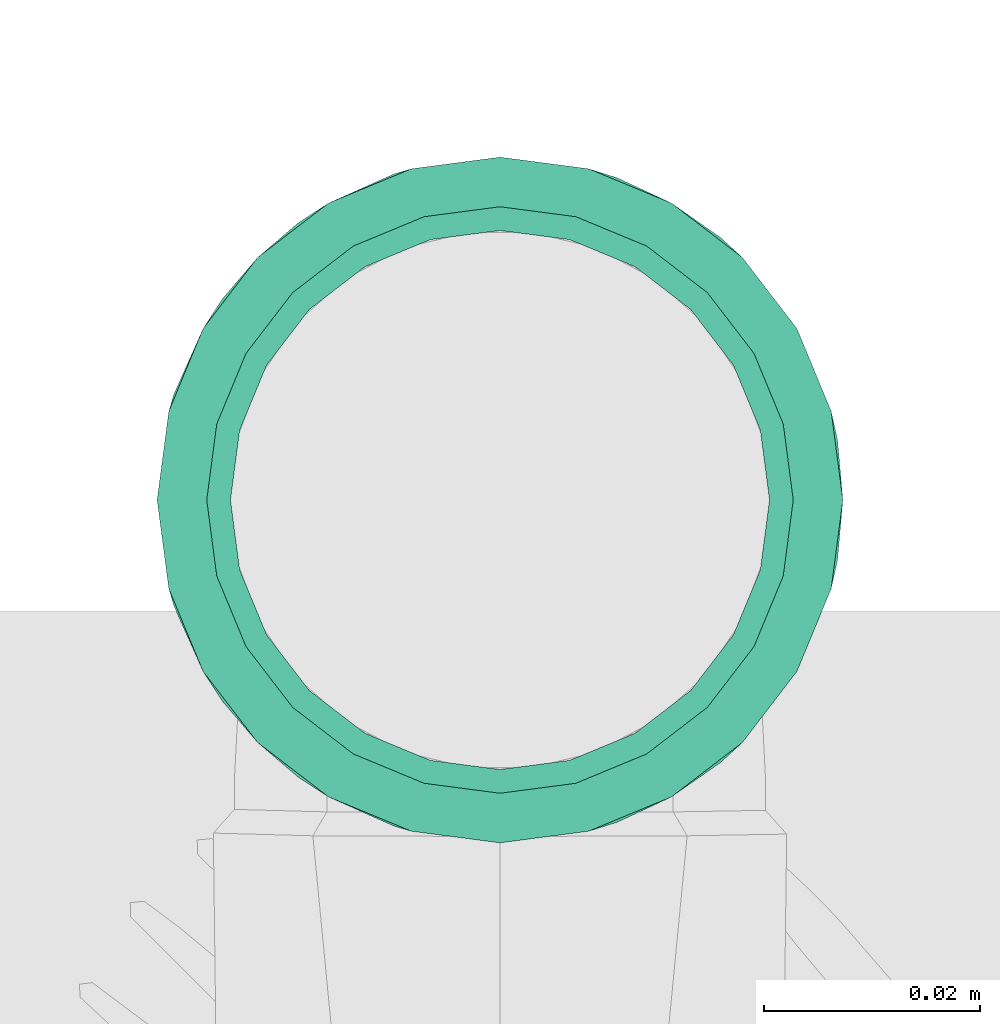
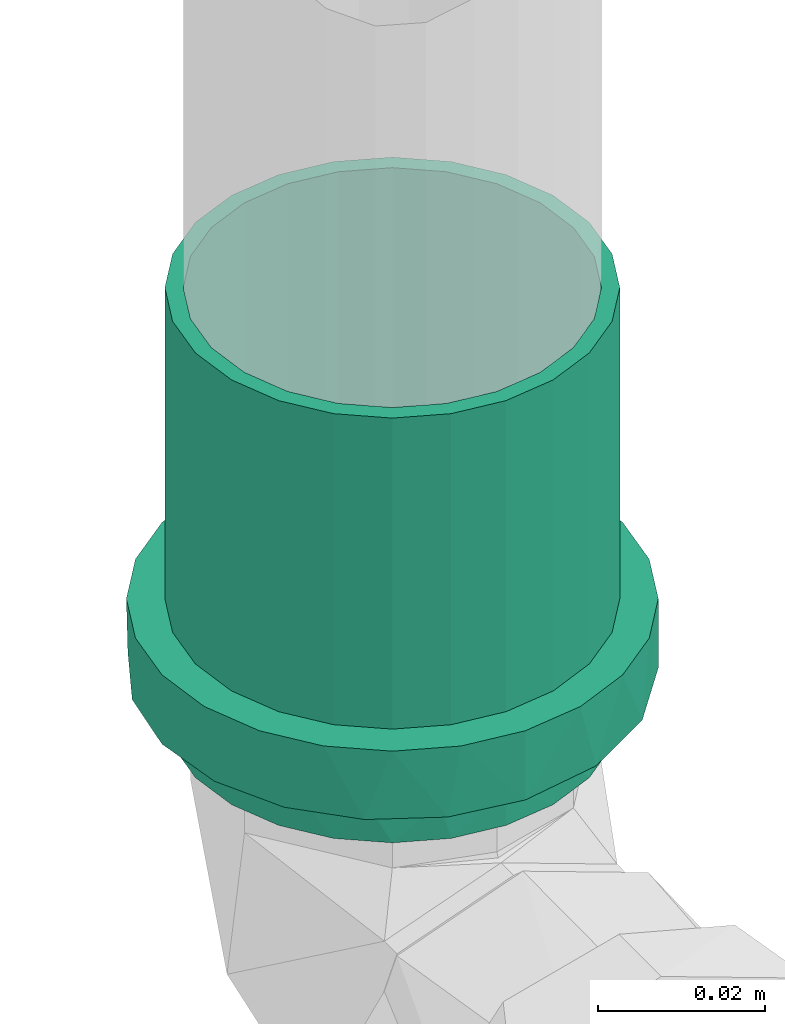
# One storey, part 43 of 589: 1 flow fitting.
"""IFC2X3 building model written with IfcOpenShell, lengths in millimetres."""

import ifcopenshell
import ifcopenshell.guid

model = None  # the IFC model being written
_history = None  # IfcOwnerHistory: only IFC2X3 demands one
_inside = {}  # id of a spatial element -> (the spatial element, [elements in it])
_under = {}  # id of a project, library or spatial element -> (it, [spatial elements below it])
_declared = {}  # id of a project -> (the project, [libraries it declares])
_typed = {}  # id of a type object -> (the type object, [elements of that type])
_made_of = {}  # id of a material, layer set ... -> (it, [elements and type objects made of it])


def new_model(schema):
    """Start an empty IFC model of exactly this schema.

    Asked for "IFC4X3", IfcOpenShell would pick the latest addendum, in which some entities
    have other attributes; the version numbers below select the first issue.
    IFC2X3 requires an IfcOwnerHistory on every rooted entity: one is made here for all.
    """
    global model, _history
    if schema == "IFC4X3":
        model = ifcopenshell.file(schema_version=(4, 3, 0, 0))
    else:
        model = ifcopenshell.file(schema=schema)
    _inside.clear()
    _under.clear()
    _declared.clear()
    _typed.clear()
    _made_of.clear()
    _history = None
    if model.schema == "IFC2X3":
        org = make("IfcOrganization", Name="unknown")
        user = make(
            "IfcPersonAndOrganization",
            ThePerson=make("IfcPerson", FamilyName="unknown"),
            TheOrganization=org,
        )
        app = make(
            "IfcApplication",
            ApplicationDeveloper=org,
            Version="unknown",
            ApplicationFullName="unknown",
            ApplicationIdentifier="unknown",
        )
        _history = make(
            "IfcOwnerHistory",
            OwningUser=user,
            OwningApplication=app,
            ChangeAction="ADDED",
            CreationDate=0,
        )
    return model


def make(cls, **values):
    """One entity of the class cls with the attributes given. An attribute that is None is left unset."""
    return model.create_entity(
        cls, **{name: value for name, value in values.items() if value is not None}
    )


def entity(cls, *values):
    """Any entity or typed value of the class cls, its attributes in the order of the schema. None: left unset."""
    e = model.create_entity(cls)
    for i, value in enumerate(values):
        if value is not None:
            e[i] = value
    return e


def rooted(cls, **values):
    """An entity with a GlobalId (a new one), such as an element, a storey or a relation."""
    return make(cls, GlobalId=ifcopenshell.guid.new(), OwnerHistory=_history, **values)


def si_unit(unit_type, name, prefix=None):
    """IfcSIUnit, for example si_unit("LENGTHUNIT", "METRE", prefix="MILLI")."""
    return make("IfcSIUnit", UnitType=unit_type, Prefix=prefix, Name=name)


def converted_unit(unit_type, name, factor, base, dimensions=None, offset=None):
    """IfcConversionBasedUnit, such as the inch: factor (a typed value) times the base unit."""
    return make(
        "IfcConversionBasedUnit"
        if offset is None
        else "IfcConversionBasedUnitWithOffset",
        ConversionOffset=offset,
        Dimensions=None
        if dimensions is None
        else entity("IfcDimensionalExponents", *dimensions),
        UnitType=unit_type,
        Name=name,
        ConversionFactor=make(
            "IfcMeasureWithUnit", ValueComponent=factor, UnitComponent=base
        ),
    )


def derived_unit(unit_type, elements):
    """IfcDerivedUnit: a product of units, each with its exponent."""
    return make(
        "IfcDerivedUnit",
        Elements=[
            make("IfcDerivedUnitElement", Unit=unit, Exponent=power)
            for unit, power in elements
        ],
        UnitType=unit_type,
    )


def assignment(units):
    """IfcUnitAssignment: the units of a project."""
    return None if units is None else make("IfcUnitAssignment", Units=units)


def point(xyz):
    """IfcCartesianPoint."""
    return None if xyz is None else make("IfcCartesianPoint", Coordinates=xyz)


def direction(xyz):
    """IfcDirection."""
    return None if xyz is None else make("IfcDirection", DirectionRatios=xyz)


def frame(location, z_axis=None, x_axis=None):
    """IfcAxis2Placement3D, a coordinate frame: its origin and axes. An axis left out is left unset."""
    return make(
        "IfcAxis2Placement3D",
        Location=point(location),
        Axis=direction(z_axis),
        RefDirection=direction(x_axis),
    )


def origin():
    """The frame at (0, 0, 0) with its axes left unset."""
    return frame((0.0, 0.0, 0.0))


def place(relative_to, where):
    """IfcLocalPlacement: puts the frame where relative to a parent placement (None: the world)."""
    return make(
        "IfcLocalPlacement", PlacementRelTo=relative_to, RelativePlacement=where
    )


def context(
    kind, dimensions, precision=None, world=None, true_north=None, identifier=None
):
    """IfcGeometricRepresentationContext, for example the 3D "Model" context."""
    return make(
        "IfcGeometricRepresentationContext",
        ContextIdentifier=identifier,
        ContextType=kind,
        CoordinateSpaceDimension=dimensions,
        Precision=precision,
        WorldCoordinateSystem=world,
        TrueNorth=true_north,
    )


def subcontext(parent, identifier, kind, view, scale=None):
    """IfcGeometricRepresentationSubContext, for example "Body" below "Model"."""
    return make(
        "IfcGeometricRepresentationSubContext",
        ContextIdentifier=identifier,
        ContextType=kind,
        ParentContext=parent,
        TargetScale=scale,
        TargetView=view,
    )


def project(units=None, contexts=None):
    """IfcProject with its units and contexts."""
    return rooted(
        "IfcProject",
        Name="project",
        RepresentationContexts=contexts,
        UnitsInContext=assignment(units),
    )


def spatial(cls, under=None, at=None, **own):
    """A site, building, storey or space (cls), placed at a placement, below another one or the project."""
    s = rooted(cls, ObjectPlacement=at, **own)
    if under is not None:
        _under.setdefault(under.id(), (under, []))[1].append(s)
    return s


def faces_of(points, faces, orient=None, outer=None):
    """IfcFace entities. A face is a list of loops; a loop is a list of indices into points, from 0.

    orient and outer hold one flag for each loop. By default every Orientation is true, the
    first loop of a face is its IfcFaceOuterBound and the others are IfcFaceBound.
    """
    made = []
    for i, loops in enumerate(faces):
        bounds = []
        for j, loop in enumerate(loops):
            is_outer = j == 0 if outer is None else outer[i][j]
            bounds.append(
                make(
                    "IfcFaceOuterBound" if is_outer else "IfcFaceBound",
                    Bound=make("IfcPolyLoop", Polygon=[points[k] for k in loop]),
                    Orientation=True if orient is None else orient[i][j],
                )
            )
        made.append(make("IfcFace", Bounds=bounds))
    return made


def faceted_brep(points, faces, orient=None, outer=None, voids=None):
    """IfcFacetedBrep: a solid bounded by flat faces; with voids (closed shells), ...WithVoids."""
    shared = [point(p) for p in points]
    hull = make("IfcClosedShell", CfsFaces=faces_of(shared, faces, orient, outer))
    if voids is None:
        return make("IfcFacetedBrep", Outer=hull)
    return make(
        "IfcFacetedBrepWithVoids",
        Outer=hull,
        Voids=[
            make(cls, CfsFaces=faces_of(shared, fs, o, b)) for cls, fs, o, b in voids
        ],
    )


def shape(context_of_items, identifier, shape_type, items):
    """IfcShapeRepresentation: the items that make up one representation, for example the "Body"."""
    return make(
        "IfcShapeRepresentation",
        ContextOfItems=context_of_items,
        RepresentationIdentifier=identifier,
        RepresentationType=shape_type,
        Items=items,
    )


def source(mapping_origin, context_of_items, identifier, shape_type, items):
    """IfcRepresentationMap: a shape defined once, which mapped items show again and again."""
    return make(
        "IfcRepresentationMap",
        MappingOrigin=mapping_origin,
        MappedRepresentation=shape(context_of_items, identifier, shape_type, items),
    )


def transform(
    local_origin,
    x_axis=None,
    y_axis=None,
    z_axis=None,
    scale=None,
    scale2=None,
    scale3=None,
    uniform=True,
):
    """IfcCartesianTransformationOperator3D, or its non-uniform kind. x_axis, y_axis, z_axis: its Axis1, 2, 3."""
    if uniform:
        return make(
            "IfcCartesianTransformationOperator3D",
            Axis1=direction(x_axis),
            Axis2=direction(y_axis),
            LocalOrigin=point(local_origin),
            Scale=scale,
            Axis3=direction(z_axis),
        )
    return make(
        "IfcCartesianTransformationOperator3DnonUniform",
        Axis1=direction(x_axis),
        Axis2=direction(y_axis),
        LocalOrigin=point(local_origin),
        Scale=scale,
        Axis3=direction(z_axis),
        Scale2=scale2,
        Scale3=scale3,
    )


def mapped(mapping_source, mapping_target):
    """IfcMappedItem: shows the shape of a source again, moved by a transform."""
    return make(
        "IfcMappedItem", MappingSource=mapping_source, MappingTarget=mapping_target
    )


def material(Name=None, Category=None):
    """IfcMaterial."""
    return make("IfcMaterial", Name=Name, Category=Category)


def made_of(thing, what):
    """Note that an element or type object is made of a material, layer set ...; save() writes the relation."""
    if what is not None:
        _made_of.setdefault(what.id(), (what, []))[1].append(thing)
    return thing


def type_object(cls, material=None, **own):
    """A type object (cls), such as IfcWallType, which elements share."""
    return made_of(rooted(cls, **own), material)


def type_shapes(of_type, sources):
    """Give a type object the sources (RepresentationMaps) that its elements show as mapped items."""
    of_type.RepresentationMaps = sources


def element(
    cls,
    number,
    at=None,
    inside=None,
    cuts=None,
    type_object=None,
    material=None,
    context=None,
    identifier="Body",
    shape_type=None,
    held_by="IfcProductDefinitionShape",
    body=None,
    shapes=None,
    **own,
):
    """One element of the class cls, such as IfcWall. Its Tag is "e" and its number.

    at: its placement. inside: the storey or other place that contains it. cuts: it is an
    opening in that element (IfcRelVoidsElement). A single representation is given by context,
    identifier, shape_type and body (its items); several are given by shapes. held_by: the class
    of the entity that holds the representations. save() writes the other relations.
    """
    e = rooted(cls, Tag="e%d" % number, ObjectPlacement=at, **own)
    if body is not None:
        shapes = [shape(context, identifier, shape_type, body)]
    if shapes is not None:
        e.Representation = make(held_by, Representations=shapes)
    if inside is not None:
        _inside.setdefault(inside.id(), (inside, []))[1].append(e)
    if cuts is not None:
        rooted(
            "IfcRelVoidsElement", RelatingBuildingElement=cuts, RelatedOpeningElement=e
        )
    if type_object is not None:
        _typed.setdefault(type_object.id(), (type_object, []))[1].append(e)
    return made_of(e, material)


def aggregate(whole, parts):
    """IfcRelAggregates: a whole, such as a stair, and the parts it consists of."""
    return rooted("IfcRelAggregates", RelatingObject=whole, RelatedObjects=parts)


def save(model, path):
    """Write the relations noted so far, then the file.

    IfcRelAggregates (storeys below a building ...), IfcRelContainedInSpatialStructure (elements
    in a storey), IfcRelDefinesByType, IfcRelAssociatesMaterial and IfcRelDeclares: one each for
    every whole, place, type object, material and project.
    """
    for whole, parts in _under.values():
        aggregate(whole, parts)
    for where, things in _inside.values():
        rooted(
            "IfcRelContainedInSpatialStructure",
            RelatedElements=things,
            RelatingStructure=where,
        )
    for kind, things in _typed.values():
        rooted("IfcRelDefinesByType", RelatedObjects=things, RelatingType=kind)
    for what, things in _made_of.values():
        rooted("IfcRelAssociatesMaterial", RelatedObjects=things, RelatingMaterial=what)
    for by, libraries in _declared.values():
        rooted("IfcRelDeclares", RelatingContext=by, RelatedDefinitions=libraries)
    model.write(path)


model = new_model("IFC2X3")

# Units and contexts
model_context = context("Model", 3, precision=0.01, world=origin(), true_north=direction((6.123031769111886e-17, 1.0)))
body_context = subcontext(model_context, "Body", "Model", "MODEL_VIEW")
ifc_project = project(units=[si_unit("LENGTHUNIT", "METRE", prefix="MILLI"), si_unit("AREAUNIT", "SQUARE_METRE"), si_unit("VOLUMEUNIT", "CUBIC_METRE"), converted_unit("PLANEANGLEUNIT", "DEGREE", entity("IfcRatioMeasure", 0.017453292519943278), si_unit("PLANEANGLEUNIT", "RADIAN"), dimensions=[0, 0, 0, 0, 0, 0, 0]), si_unit("MASSUNIT", "GRAM", prefix="KILO"), derived_unit("MASSDENSITYUNIT", [(si_unit("MASSUNIT", "GRAM", prefix="KILO"), 1), (si_unit("LENGTHUNIT", "METRE"), -3)]), derived_unit("IONCONCENTRATIONUNIT", [(si_unit("MASSUNIT", "GRAM", prefix="KILO"), 1), (si_unit("LENGTHUNIT", "METRE"), -3)]), derived_unit("MOMENTOFINERTIAUNIT", [(si_unit("LENGTHUNIT", "METRE"), 4)]), si_unit("TIMEUNIT", "SECOND"), si_unit("FREQUENCYUNIT", "HERTZ"), si_unit("THERMODYNAMICTEMPERATUREUNIT", "DEGREE_CELSIUS"), derived_unit("THERMALTRANSMITTANCEUNIT", [(si_unit("MASSUNIT", "GRAM", prefix="KILO"), 1), (si_unit("THERMODYNAMICTEMPERATUREUNIT", "KELVIN"), -1), (si_unit("TIMEUNIT", "SECOND"), -3)]), derived_unit("THERMALCONDUCTANCEUNIT", [(si_unit("MASSUNIT", "GRAM", prefix="KILO"), 1), (si_unit("THERMODYNAMICTEMPERATUREUNIT", "KELVIN"), -1), (si_unit("TIMEUNIT", "SECOND"), -3), (si_unit("LENGTHUNIT", "METRE"), 1)]), derived_unit("VOLUMETRICFLOWRATEUNIT", [(si_unit("LENGTHUNIT", "METRE"), 3), (si_unit("TIMEUNIT", "SECOND"), -1)]), derived_unit("MASSFLOWRATEUNIT", [(si_unit("MASSUNIT", "GRAM", prefix="KILO"), 1), (si_unit("TIMEUNIT", "SECOND"), -1)]), derived_unit("ROTATIONALFREQUENCYUNIT", [(si_unit("TIMEUNIT", "SECOND"), -1)]), si_unit("ELECTRICCURRENTUNIT", "AMPERE"), si_unit("ELECTRICVOLTAGEUNIT", "VOLT"), si_unit("POWERUNIT", "WATT"), si_unit("FORCEUNIT", "NEWTON", prefix="KILO"), si_unit("ILLUMINANCEUNIT", "LUX"), si_unit("LUMINOUSFLUXUNIT", "LUMEN"), si_unit("LUMINOUSINTENSITYUNIT", "CANDELA"), derived_unit("USERDEFINED", [(si_unit("MASSUNIT", "GRAM", prefix="KILO"), -1), (si_unit("LENGTHUNIT", "METRE"), -2), (si_unit("TIMEUNIT", "SECOND"), 3), (si_unit("LUMINOUSFLUXUNIT", "LUMEN"), 1)]), derived_unit("USERDEFINED", [(si_unit("MASSUNIT", "GRAM", prefix="KILO"), 1), (si_unit("TIMEUNIT", "SECOND"), -3), (si_unit("LENGTHUNIT", "METRE"), 3), (si_unit("ELECTRICCURRENTUNIT", "AMPERE"), -2)]), derived_unit("SOUNDPOWERUNIT", [(si_unit("MASSUNIT", "GRAM", prefix="KILO"), 1), (si_unit("TIMEUNIT", "SECOND"), -3), (si_unit("LENGTHUNIT", "METRE"), 2)]), derived_unit("SOUNDPRESSUREUNIT", [(si_unit("MASSUNIT", "GRAM", prefix="KILO"), 1), (si_unit("LENGTHUNIT", "METRE"), -1), (si_unit("TIMEUNIT", "SECOND"), -2)]), derived_unit("LINEARVELOCITYUNIT", [(si_unit("LENGTHUNIT", "METRE"), 1), (si_unit("TIMEUNIT", "SECOND"), -1)]), si_unit("PRESSUREUNIT", "PASCAL"), derived_unit("USERDEFINED", [(si_unit("MASSUNIT", "GRAM", prefix="KILO"), 1), (si_unit("LENGTHUNIT", "METRE"), -2), (si_unit("TIMEUNIT", "SECOND"), -2)]), derived_unit("LINEARFORCEUNIT", [(si_unit("MASSUNIT", "GRAM", prefix="KILO"), 1), (si_unit("TIMEUNIT", "SECOND"), -2)]), derived_unit("PLANARFORCEUNIT", [(si_unit("MASSUNIT", "GRAM", prefix="KILO"), 1), (si_unit("LENGTHUNIT", "METRE"), -1), (si_unit("TIMEUNIT", "SECOND"), -2)]), derived_unit("SPECIFICHEATCAPACITYUNIT", [(si_unit("THERMODYNAMICTEMPERATUREUNIT", "KELVIN"), -1), (si_unit("LENGTHUNIT", "METRE"), 2), (si_unit("TIMEUNIT", "SECOND"), -2)]), derived_unit("HEATINGVALUEUNIT", [(si_unit("LENGTHUNIT", "METRE"), 2), (si_unit("TIMEUNIT", "SECOND"), -2)]), derived_unit("VAPORPERMEABILITYUNIT", [(si_unit("LENGTHUNIT", "METRE"), -1), (si_unit("TIMEUNIT", "SECOND"), 1)]), derived_unit("DYNAMICVISCOSITYUNIT", [(si_unit("MASSUNIT", "GRAM", prefix="KILO"), 1), (si_unit("TIMEUNIT", "SECOND"), -1), (si_unit("LENGTHUNIT", "METRE"), -1)]), derived_unit("THERMALEXPANSIONCOEFFICIENTUNIT", [(si_unit("THERMODYNAMICTEMPERATUREUNIT", "KELVIN"), -1)]), derived_unit("MODULUSOFELASTICITYUNIT", [(si_unit("MASSUNIT", "GRAM", prefix="KILO"), 1), (si_unit("LENGTHUNIT", "METRE"), -1), (si_unit("TIMEUNIT", "SECOND"), -2)]), derived_unit("ISOTHERMALMOISTURECAPACITYUNIT", [(si_unit("LENGTHUNIT", "METRE"), 3), (si_unit("MASSUNIT", "GRAM", prefix="KILO"), -1)]), derived_unit("MOISTUREDIFFUSIVITYUNIT", [(si_unit("TIMEUNIT", "SECOND"), -1), (si_unit("LENGTHUNIT", "METRE"), 2)])], contexts=[model_context])

# Site, building, storey
site_placement = place(None, origin())
site = spatial("IfcSite", under=ifc_project, at=site_placement, Name="Default", CompositionType="ELEMENT")
building_placement = place(site_placement, origin())
building = spatial("IfcBuilding", under=site, at=building_placement, CompositionType="ELEMENT")
storey_placement = place(building_placement, frame((0.0, 0.0, 100.0)))
storey = spatial("IfcBuildingStorey", under=building, at=storey_placement, Name="TÉRREO", CompositionType="ELEMENT", Elevation=100.0)

# Flow fitting
ifc_material = material(Name="PVC Série Normal")
pipe_fitting_type = type_object("IfcPipeFittingType", Name="PVC Esgoto_Luva Simples para Conexão_Rodrigo MEP:Standard", PredefinedType="NOTDEFINED", material=ifc_material)
shared_shape = source(origin(), body_context, "Body", "Brep", [
    faceted_brep([(16.599999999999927, -13.599999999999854, -23.555890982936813), (16.599999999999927, -22.485995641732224, -22.485995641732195), (16.599999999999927, -15.900000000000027, -27.53960784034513), (16.599999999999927, -19.233304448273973, -19.233304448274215), (16.599999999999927, -7.039878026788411, -26.273182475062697), (16.599999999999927, -27.539607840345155, -15.899999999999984), (16.599999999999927, -23.55589098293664, -13.600000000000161), (16.599999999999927, -26.273182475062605, -7.03987802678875), (16.599999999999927, -30.716441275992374, -8.230445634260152), (16.599999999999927, -27.2, 0.0), (16.599999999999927, -31.8, 0.0), (16.599999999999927, -26.273182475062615, 7.0398780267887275), (16.599999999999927, -30.71644127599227, 8.23044563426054), (16.599999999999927, -23.555890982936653, 13.60000000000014), (16.599999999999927, -27.539607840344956, 15.900000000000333), (16.599999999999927, -19.233304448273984, 19.2333044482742), (16.599999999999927, -22.485995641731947, 22.48599564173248), (16.599999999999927, -13.599999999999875, 23.555890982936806), (16.599999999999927, -15.899999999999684, 27.53960784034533), (16.599999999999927, -7.039878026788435, 26.27318247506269), (16.599999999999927, -8.230445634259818, 30.716441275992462), (16.599999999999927, 0.0, 27.2), (16.599999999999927, 0.0, 31.8), (16.599999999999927, 7.039878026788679, 26.273182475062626), (16.599999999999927, 8.230445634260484, 30.716441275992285), (16.599999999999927, 13.600000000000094, 23.555890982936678), (16.599999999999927, 15.900000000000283, 27.53960784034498), (16.599999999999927, 19.23330444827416, 19.233304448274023), (16.599999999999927, 22.485995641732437, 22.48599564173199), (16.599999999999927, 23.55589098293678, 13.59999999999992), (16.599999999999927, 27.539607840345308, 15.899999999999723), (16.599999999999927, 30.71644127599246, 8.230445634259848), (16.599999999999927, 26.273182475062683, 7.039878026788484), (16.599999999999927, 31.8, 0.0), (16.599999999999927, 27.2, 0.0), (16.599999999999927, 30.71644127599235, -8.23044563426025), (16.599999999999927, 26.273182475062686, -7.03987802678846), (16.599999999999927, 27.53960784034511, -15.90000000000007), (16.599999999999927, 23.55589098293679, -13.599999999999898), (16.599999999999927, 22.485995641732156, -22.485995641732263), (16.599999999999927, 19.233304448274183, -19.233304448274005), (16.599999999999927, 15.899999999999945, -27.53960784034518), (16.599999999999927, 13.600000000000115, -23.555890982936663), (16.599999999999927, 8.230445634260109, -30.716441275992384), (16.599999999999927, 7.039878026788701, -26.273182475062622), (16.599999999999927, 0.0, -31.8), (16.599999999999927, 0.0, -27.2), (16.599999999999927, -8.2304456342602, -30.71644127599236), (6.5000000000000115, 31.8, 0.0), (6.500000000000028, 30.243828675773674, 9.826028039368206), (6.500000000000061, 18.6933889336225, 25.72541953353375), (6.500000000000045, 25.727620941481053, 18.69035903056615), (6.500000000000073, 9.829589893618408, 30.24267122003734), (6.50000000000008, 0.0037451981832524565, 31.799999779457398), (6.5000000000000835, -9.822466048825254, 30.244985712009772), (6.500000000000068, -25.723217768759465, 18.696418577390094), (6.50000000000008, -18.687328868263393, 25.729821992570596), (6.50000000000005, -30.24167131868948, 9.832665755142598), (6.5000000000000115, -31.8, 0.0), (6.499999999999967, -24.364200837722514, -20.435892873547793), (6.499999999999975, -27.12442527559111, -15.652735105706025), (6.499999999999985, -29.884649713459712, -10.869577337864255), (6.499999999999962, -20.134403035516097, -23.986420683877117), (6.4999999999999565, -15.904605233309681, -27.53694849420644), (6.499999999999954, -10.715490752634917, -29.42653259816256), (6.499999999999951, -5.526376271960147, -31.31611670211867), (6.499999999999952, -0.003927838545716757, -31.316809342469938), (6.499999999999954, 5.518520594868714, -31.317501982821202), (6.499999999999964, 15.897697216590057, -27.54093722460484), (6.499999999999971, 20.128385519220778, -23.99147055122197), (6.499999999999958, 10.70810890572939, -29.42921960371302), (6.499999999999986, 27.12049800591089, -15.659538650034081), (6.499999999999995, 29.881922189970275, -10.877073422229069), (6.499999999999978, 24.359073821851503, -20.442003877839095), (6.499999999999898, 30.69617385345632, -6.259599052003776), (6.500000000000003, 30.84096109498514, -5.438536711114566), (62.0, -12.499999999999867, -21.650635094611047), (62.0, -19.233304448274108, -19.23330444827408), (62.0, -13.600000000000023, -23.55589098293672), (62.0, -6.470476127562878, -24.14814565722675), (62.0, -17.677669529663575, -17.677669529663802), (62.0, -23.55589098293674, -13.599999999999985), (62.0, -21.65063509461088, -12.50000000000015), (62.0, -24.148145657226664, -6.470476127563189), (62.0, -26.27318247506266, -7.039878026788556), (62.0, -25.0, 0.0), (62.0, -27.2, 0.0), (62.0, -24.148145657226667, 6.4704761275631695), (62.0, -26.273182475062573, 7.03987802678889), (62.0, -21.650635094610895, 12.500000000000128), (62.0, -23.555890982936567, 13.600000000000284), (62.0, -17.67766952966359, 17.67766952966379), (62.0, -19.233304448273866, 19.233304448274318), (62.0, -12.499999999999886, 21.650635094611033), (62.0, -13.59999999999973, 23.55589098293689), (62.0, -6.4704761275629, 24.14814565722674), (62.0, -7.039878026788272, 26.273182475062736), (62.0, 0.0, 25.0), (62.0, 0.0, 27.2), (62.0, 6.470476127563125, 24.148145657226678), (62.0, 7.039878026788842, 26.273182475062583), (62.0, 12.500000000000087, 21.650635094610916), (62.0, 13.600000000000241, 23.555890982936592), (62.0, 17.677669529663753, 17.677669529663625), (62.0, 19.233304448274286, 19.2333044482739), (62.0, 21.65063509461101, 12.499999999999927), (62.0, 23.555890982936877, 13.599999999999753), (62.0, 26.27318247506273, 7.039878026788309), (62.0, 24.14814565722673, 6.470476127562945), (62.0, 27.2, 0.0), (62.0, 25.0, 0.0), (62.0, 26.27318247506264, -7.0398780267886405), (62.0, 24.148145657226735, -6.470476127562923), (62.0, 23.5558909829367, -13.600000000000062), (62.0, 21.650635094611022, -12.499999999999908), (62.0, 19.233304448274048, -19.233304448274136), (62.0, 17.67766952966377, -17.677669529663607), (62.0, 13.599999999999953, -23.555890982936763), (62.0, 12.500000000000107, -21.650635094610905), (62.0, 7.039878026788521, -26.27318247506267), (62.0, 6.470476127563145, -24.148145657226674), (62.0, 0.0, -27.2), (62.0, 0.0, -25.0), (62.0, -7.039878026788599, -26.273182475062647), (0.0, -13.600000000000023, -23.55589098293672), (0.0, -19.233304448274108, -19.23330444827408), (0.0, -12.499999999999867, -21.650635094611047), (0.0, -6.470476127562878, -24.14814565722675), (0.0, -7.039878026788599, -26.273182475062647), (0.0, -17.677669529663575, -17.677669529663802), (0.0, -23.55589098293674, -13.599999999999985), (0.0, -21.65063509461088, -12.50000000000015), (0.0, -24.148145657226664, -6.470476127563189), (0.0, -26.27318247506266, -7.039878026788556), (0.0, -25.0, 0.0), (0.0, -27.2, 0.0), (0.0, -24.148145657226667, 6.4704761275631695), (0.0, -26.273182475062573, 7.03987802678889), (0.0, -21.650635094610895, 12.500000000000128), (0.0, -23.555890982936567, 13.600000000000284), (0.0, -17.67766952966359, 17.67766952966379), (0.0, -19.233304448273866, 19.233304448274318), (0.0, -12.499999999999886, 21.650635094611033), (0.0, -13.59999999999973, 23.55589098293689), (0.0, -6.4704761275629, 24.14814565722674), (0.0, -7.039878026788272, 26.273182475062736), (0.0, 0.0, 25.0), (0.0, 0.0, 27.2), (0.0, 6.470476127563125, 24.148145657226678), (0.0, 7.039878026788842, 26.273182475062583), (0.0, 12.500000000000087, 21.650635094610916), (0.0, 13.600000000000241, 23.555890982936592), (0.0, 17.677669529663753, 17.677669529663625), (0.0, 19.233304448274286, 19.2333044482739), (0.0, 21.65063509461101, 12.499999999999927), (0.0, 23.555890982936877, 13.599999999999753), (0.0, 26.27318247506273, 7.039878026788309), (0.0, 24.14814565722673, 6.470476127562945), (0.0, 27.2, 0.0), (0.0, 25.0, 0.0), (0.0, 26.27318247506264, -7.0398780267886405), (0.0, 24.148145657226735, -6.470476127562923), (0.0, 23.5558909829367, -13.600000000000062), (0.0, 21.650635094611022, -12.499999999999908), (0.0, 19.233304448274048, -19.233304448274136), (0.0, 17.67766952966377, -17.677669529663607), (0.0, 13.599999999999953, -23.555890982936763), (0.0, 12.500000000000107, -21.650635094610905), (0.0, 7.039878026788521, -26.27318247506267), (0.0, 6.470476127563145, -24.148145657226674), (0.0, 0.0, -27.2), (0.0, 0.0, -25.0), (5.299999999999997, 27.2, 0.0), (5.300000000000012, 25.868346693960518, 8.406464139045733), (5.300000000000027, 22.003776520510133, 15.989803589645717), (5.30000000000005, 8.400454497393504, 25.870298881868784), (5.300000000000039, 15.9846915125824, 22.007490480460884), (5.300000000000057, -0.00631876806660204, 27.199999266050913), (5.30000000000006, -8.412473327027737, 25.866393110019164), (5.3000000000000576, -15.99491480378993, 22.00006137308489), (5.300000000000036, -25.8722496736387, 8.394444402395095), (5.30000000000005, -22.011203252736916, 15.97957857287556), (5.299999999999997, -27.2, 0.0), (5.299999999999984, -25.56171296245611, -9.29724854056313), (5.2999999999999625, -17.22187932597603, -20.516686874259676), (5.299999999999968, -20.839819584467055, -17.47975742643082), (5.299999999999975, -23.200766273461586, -13.388502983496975), (5.2999999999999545, -9.165451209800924, -25.169864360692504), (5.299999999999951, -4.726963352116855, -26.78611239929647), (5.299999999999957, -13.603939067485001, -23.553616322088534), (5.29999999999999, 26.379689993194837, -4.651830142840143), (5.299999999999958, 13.5980303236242, -23.55702806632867), (5.299999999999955, 9.159137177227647, -25.17216267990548), (5.299999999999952, 4.720244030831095, -26.787297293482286), (5.299999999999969, 20.83543421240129, -17.484984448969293), (5.299999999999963, 17.216732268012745, -20.52100625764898), (5.299999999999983, 25.559379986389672, -9.303660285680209), (5.299999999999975, 23.197407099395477, -13.394322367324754), (5.299999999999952, -0.0033596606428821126, -26.78670484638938), (39.0, 25.0, 0.0), (39.0, -25.0, 0.0)], [[[0, 1, 2]], [[3, 1, 0]], [[4, 0, 2]], [[1, 3, 5]], [[5, 3, 6]], [[5, 6, 7]], [[8, 5, 7]], [[9, 8, 7]], [[10, 8, 9]], [[10, 9, 11]], [[12, 10, 11]], [[12, 11, 13]], [[14, 12, 13]], [[14, 13, 15]], [[15, 16, 14]], [[15, 17, 16]], [[17, 18, 16]], [[19, 18, 17]], [[18, 19, 20]], [[21, 20, 19]], [[22, 20, 21]], [[23, 22, 21]], [[24, 22, 23]], [[25, 24, 23]], [[24, 25, 26]], [[25, 27, 26]], [[28, 26, 27]], [[28, 27, 29]], [[28, 29, 30]], [[30, 29, 31]], [[31, 29, 32]], [[33, 31, 32]], [[33, 32, 34]], [[33, 34, 35]], [[34, 36, 35]], [[37, 35, 36]], [[37, 36, 38]], [[39, 37, 38]], [[40, 39, 38]], [[40, 41, 39]], [[42, 41, 40]], [[43, 41, 42]], [[42, 44, 43]], [[43, 44, 45]], [[44, 46, 45]], [[46, 4, 47]], [[45, 46, 47]], [[2, 47, 4]], [[33, 48, 31]], [[31, 49, 30]], [[26, 28, 50]], [[51, 28, 30]], [[24, 26, 52]], [[49, 51, 30]], [[31, 48, 49]], [[50, 52, 26]], [[28, 51, 50]], [[52, 53, 24]], [[53, 22, 24]], [[20, 53, 54]], [[20, 54, 18]], [[14, 16, 55]], [[56, 16, 18]], [[12, 14, 57]], [[56, 55, 16]], [[18, 54, 56]], [[57, 58, 12]], [[14, 55, 57]], [[58, 10, 12]], [[22, 53, 20]], [[8, 10, 58]], [[59, 1, 5]], [[60, 59, 5, 61]], [[2, 62, 63]], [[8, 58, 61]], [[2, 63, 64]], [[47, 2, 64]], [[64, 65, 47]], [[62, 1, 59]], [[66, 67, 45, 65]], [[41, 68, 69]], [[1, 62, 2]], [[39, 41, 69]], [[8, 61, 5]], [[43, 45, 67]], [[68, 41, 70]], [[71, 72, 37, 73]], [[43, 70, 41]], [[72, 35, 37]], [[69, 73, 39]], [[70, 43, 67]], [[47, 65, 45]], [[39, 73, 37]], [[35, 72, 74, 75]], [[33, 75, 48]], [[35, 75, 33]], [[76, 77, 78]], [[79, 76, 78]], [[80, 77, 76]], [[77, 80, 81]], [[82, 81, 80]], [[83, 81, 82]], [[81, 83, 84]], [[83, 85, 84]], [[86, 84, 85]], [[86, 85, 87]], [[87, 88, 86]], [[89, 88, 87]], [[88, 89, 90]], [[91, 90, 89]], [[92, 90, 91]], [[92, 91, 93]], [[93, 94, 92]], [[95, 94, 93]], [[94, 95, 96]], [[97, 96, 95]], [[98, 96, 97]], [[99, 98, 97]], [[100, 98, 99]], [[101, 100, 99]], [[100, 101, 102]], [[101, 103, 102]], [[104, 102, 103]], [[103, 105, 104]], [[104, 105, 106]], [[107, 106, 105]], [[105, 108, 107]], [[107, 108, 109]], [[108, 110, 109]], [[109, 110, 111]], [[110, 112, 111]], [[113, 111, 112]], [[112, 114, 113]], [[115, 113, 114]], [[116, 115, 114]], [[116, 117, 115]], [[118, 117, 116]], [[119, 117, 118]], [[118, 120, 119]], [[119, 120, 121]], [[120, 122, 121]], [[122, 79, 123]], [[121, 122, 123]], [[78, 123, 79]], [[124, 125, 126]], [[124, 126, 127]], [[127, 128, 124]], [[126, 125, 129]], [[130, 129, 125]], [[129, 130, 131]], [[131, 130, 132]], [[133, 132, 130]], [[133, 134, 132]], [[134, 133, 135]], [[136, 134, 135]], [[135, 137, 136]], [[136, 137, 138]], [[139, 138, 137]], [[138, 139, 140]], [[140, 139, 141]], [[142, 140, 141]], [[141, 143, 142]], [[142, 143, 144]], [[145, 144, 143]], [[144, 145, 146]], [[146, 145, 147]], [[146, 147, 148]], [[148, 147, 149]], [[148, 149, 150]], [[151, 150, 149]], [[151, 152, 150]], [[152, 151, 153]], [[153, 154, 152]], [[155, 154, 153]], [[154, 155, 156]], [[156, 157, 154]], [[158, 157, 156]], [[158, 159, 157]], [[160, 159, 158]], [[160, 161, 159]], [[161, 160, 162]], [[162, 163, 161]], [[163, 162, 164]], [[163, 164, 165]], [[164, 166, 165]], [[165, 166, 167]], [[167, 166, 168]], [[168, 169, 167]], [[170, 169, 168]], [[128, 171, 170]], [[170, 171, 169]], [[128, 127, 171]], [[172, 156, 173]], [[173, 155, 174]], [[175, 176, 151]], [[175, 149, 177]], [[153, 176, 174]], [[177, 149, 147]], [[156, 155, 173]], [[172, 158, 156]], [[32, 107, 109, 34]], [[153, 151, 176]], [[174, 155, 153]], [[151, 149, 175]], [[177, 145, 178]], [[178, 143, 179]], [[180, 181, 139]], [[141, 181, 179]], [[182, 180, 137]], [[143, 141, 179]], [[178, 145, 143]], [[139, 137, 180]], [[181, 141, 139]], [[137, 135, 182]], [[86, 88, 11, 9]], [[147, 145, 177]], [[183, 182, 133]], [[184, 185, 125]], [[186, 183, 130, 185]], [[187, 128, 188]], [[183, 133, 130]], [[182, 135, 133]], [[86, 9, 7, 84]], [[128, 187, 124]], [[124, 189, 184]], [[125, 185, 130]], [[160, 158, 190]], [[166, 191, 192]], [[187, 189, 124]], [[168, 166, 192]], [[188, 128, 170]], [[125, 124, 184]], [[192, 193, 168]], [[194, 195, 164]], [[190, 196, 160]], [[197, 194, 162, 196]], [[160, 196, 162]], [[164, 195, 166]], [[198, 188, 170, 193]], [[168, 193, 170]], [[194, 164, 162]], [[166, 195, 191]], [[158, 172, 190]], [[199, 110, 108, 157, 159]], [[103, 101, 150, 152]], [[152, 154, 105, 103]], [[154, 157, 108, 105]], [[148, 150, 101, 99]], [[99, 97, 146, 148]], [[144, 146, 97, 95]], [[93, 142, 144, 95]], [[89, 87, 136, 138]], [[138, 140, 91, 89]], [[140, 142, 93, 91]], [[200, 134, 136, 87, 85]], [[85, 83, 132, 134, 200]], [[80, 76, 126, 129]], [[132, 83, 82, 131]], [[80, 129, 131, 82]], [[127, 126, 76, 79]], [[79, 122, 171, 127]], [[169, 171, 122, 120]], [[118, 167, 169, 120]], [[114, 112, 161, 163]], [[163, 165, 116, 114]], [[165, 167, 118, 116]], [[199, 159, 161, 112, 110]], [[190, 172, 48, 75, 74, 72, 196]], [[197, 196, 72, 71, 73, 194]], [[195, 194, 73, 69, 68, 191]], [[68, 70, 67, 193, 192, 191]], [[66, 65, 188, 198, 193, 67]], [[63, 189, 187, 188, 65, 64]], [[58, 182, 183, 61]], [[59, 60, 61, 183, 186, 185]], [[63, 62, 59, 185, 184, 189]], [[57, 181, 180]], [[54, 177, 178]], [[56, 178, 179]], [[55, 179, 181]], [[58, 180, 182]], [[58, 57, 180]], [[181, 57, 55]], [[55, 56, 179]], [[56, 54, 178]], [[54, 53, 177]], [[52, 176, 175]], [[49, 172, 173]], [[51, 173, 174]], [[50, 174, 176]], [[52, 50, 176]], [[175, 53, 52]], [[50, 51, 174]], [[173, 51, 49]], [[172, 49, 48]], [[177, 53, 175]], [[106, 107, 32, 29]], [[102, 104, 27, 25]], [[27, 104, 106, 29]], [[100, 102, 25, 23]], [[23, 21, 98, 100]], [[94, 96, 19, 17]], [[94, 17, 15, 92]], [[88, 90, 13, 11]], [[13, 90, 92, 15]], [[98, 21, 19, 96]], [[84, 7, 6, 81]], [[0, 4, 123, 78]], [[77, 81, 6, 3]], [[77, 3, 0, 78]], [[4, 46, 121, 123]], [[117, 119, 44, 42]], [[117, 42, 40, 115]], [[111, 113, 38, 36]], [[38, 113, 115, 40]], [[109, 111, 36, 34]], [[121, 46, 44, 119]]]),
])
type_shapes(pipe_fitting_type, [shared_shape])
flow_fitting_placement = place(storey_placement, frame((1855.1564123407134, -9657.272915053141, 3011.6345858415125), z_axis=(-1.0, 0.0, 0.0), x_axis=(0.0, 0.0, 1.0)))
element("IfcFlowFitting", 1, at=flow_fitting_placement, inside=storey, type_object=pipe_fitting_type, material=ifc_material, Name="PVC Esgoto_Luva Simples para Conexão_Rodrigo MEP:Standard", ObjectType="PVC Esgoto_Luva Simples para Conexão_Rodrigo MEP:Standard", context=body_context, shape_type="MappedRepresentation", body=[
    mapped(shared_shape, transform((0.0, 0.0, 0.0), scale=1.0)),
])

save(model, "model.ifc")
